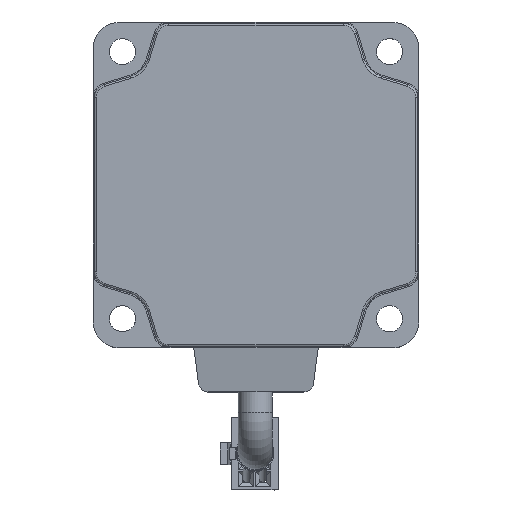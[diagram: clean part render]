
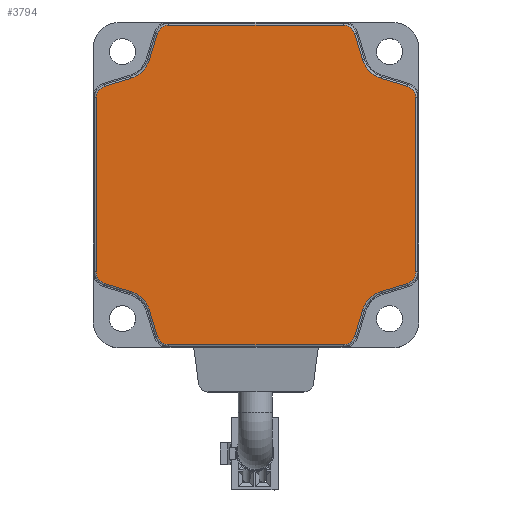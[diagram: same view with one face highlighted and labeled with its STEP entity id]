
A CAD part, top view. The second image highlights one B-rep face of the part: STEP entity #3794.
In plain terms, the highlighted planar face has unit normal (0, 0, 1).
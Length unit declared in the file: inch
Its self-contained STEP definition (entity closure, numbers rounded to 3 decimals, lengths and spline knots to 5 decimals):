
#2881=CARTESIAN_POINT('',(-0.8528,1.56496,1.33858));
#2882=VERTEX_POINT('',#2881);
#2890=CARTESIAN_POINT('',(0.8528,1.56496,1.33858));
#2891=VERTEX_POINT('',#2890);
#2892=CARTESIAN_POINT('',(-0.8528,1.56496,1.33858));
#2893=DIRECTION('',(1.0,0.0,0.0));
#2894=VECTOR('',#2893,1.7056);
#2895=LINE('',#2892,#2894);
#2896=EDGE_CURVE('',#2882,#2891,#2895,.T.);
#2916=CARTESIAN_POINT('',(-0.96574,1.48142,1.33858));
#2917=VERTEX_POINT('',#2916);
#2925=CARTESIAN_POINT('',(-0.8528,1.44685,1.33858));
#2926=DIRECTION('',(0.0,0.0,-1.0));
#2927=DIRECTION('',(-0.595,0.804,0.0));
#2928=AXIS2_PLACEMENT_3D('',#2925,#2926,#2927);
#2929=CIRCLE('',#2928,0.11811);
#2930=EDGE_CURVE('',#2917,#2882,#2929,.T.);
#2948=CARTESIAN_POINT('',(0.96574,1.48142,1.33858));
#2949=VERTEX_POINT('',#2948);
#2959=CARTESIAN_POINT('',(0.8528,1.44685,1.33858));
#2960=DIRECTION('',(0.0,0.0,-1.0));
#2961=DIRECTION('',(0.595,0.804,0.0));
#2962=AXIS2_PLACEMENT_3D('',#2959,#2960,#2961);
#2963=CIRCLE('',#2962,0.11811);
#2964=EDGE_CURVE('',#2891,#2949,#2963,.T.);
#2976=CARTESIAN_POINT('',(-1.04374,1.2266,1.33858));
#2977=VERTEX_POINT('',#2976);
#2985=CARTESIAN_POINT('',(-1.04374,1.2266,1.33858));
#2986=DIRECTION('',(0.293,0.956,0.0));
#2987=VECTOR('',#2986,0.2665);
#2988=LINE('',#2985,#2987);
#2989=EDGE_CURVE('',#2977,#2917,#2988,.T.);
#3006=CARTESIAN_POINT('',(1.04374,1.2266,1.33858));
#3007=VERTEX_POINT('',#3006);
#3017=CARTESIAN_POINT('',(0.96574,1.48142,1.33858));
#3018=DIRECTION('',(0.293,-0.956,0.0));
#3019=VECTOR('',#3018,0.2665);
#3020=LINE('',#3017,#3019);
#3021=EDGE_CURVE('',#2949,#3007,#3020,.T.);
#3033=CARTESIAN_POINT('',(-1.2266,1.04374,1.33858));
#3034=VERTEX_POINT('',#3033);
#3042=CARTESIAN_POINT('',(-1.30726,1.30726,1.33858));
#3043=DIRECTION('',(0.0,0.0,1.));
#3044=DIRECTION('',(0.707,-0.707,0.0));
#3045=AXIS2_PLACEMENT_3D('',#3042,#3043,#3044);
#3046=CIRCLE('',#3045,0.27559);
#3047=EDGE_CURVE('',#3034,#2977,#3046,.T.);
#3065=CARTESIAN_POINT('',(1.2266,1.04374,1.33858));
#3066=VERTEX_POINT('',#3065);
#3076=CARTESIAN_POINT('',(1.30726,1.30726,1.33858));
#3077=DIRECTION('',(0.0,0.0,1.));
#3078=DIRECTION('',(-0.707,-0.707,0.0));
#3079=AXIS2_PLACEMENT_3D('',#3076,#3077,#3078);
#3080=CIRCLE('',#3079,0.27559);
#3081=EDGE_CURVE('',#3007,#3066,#3080,.T.);
#3093=CARTESIAN_POINT('',(-1.48142,0.96574,1.33858));
#3094=VERTEX_POINT('',#3093);
#3102=CARTESIAN_POINT('',(-1.48142,0.96574,1.33858));
#3103=DIRECTION('',(0.956,0.293,0.0));
#3104=VECTOR('',#3103,0.2665);
#3105=LINE('',#3102,#3104);
#3106=EDGE_CURVE('',#3094,#3034,#3105,.T.);
#3123=CARTESIAN_POINT('',(1.48142,0.96574,1.33858));
#3124=VERTEX_POINT('',#3123);
#3134=CARTESIAN_POINT('',(1.2266,1.04374,1.33858));
#3135=DIRECTION('',(0.956,-0.293,0.0));
#3136=VECTOR('',#3135,0.2665);
#3137=LINE('',#3134,#3136);
#3138=EDGE_CURVE('',#3066,#3124,#3137,.T.);
#3150=CARTESIAN_POINT('',(-1.56496,0.8528,1.33858));
#3151=VERTEX_POINT('',#3150);
#3159=CARTESIAN_POINT('',(-1.44685,0.8528,1.33858));
#3160=DIRECTION('',(0.0,0.0,-1.));
#3161=DIRECTION('',(-0.804,0.595,0.0));
#3162=AXIS2_PLACEMENT_3D('',#3159,#3160,#3161);
#3163=CIRCLE('',#3162,0.11811);
#3164=EDGE_CURVE('',#3151,#3094,#3163,.T.);
#3182=CARTESIAN_POINT('',(1.56496,0.8528,1.33858));
#3183=VERTEX_POINT('',#3182);
#3193=CARTESIAN_POINT('',(1.44685,0.8528,1.33858));
#3194=DIRECTION('',(0.0,0.0,-1.0));
#3195=DIRECTION('',(0.804,0.595,0.0));
#3196=AXIS2_PLACEMENT_3D('',#3193,#3194,#3195);
#3197=CIRCLE('',#3196,0.11811);
#3198=EDGE_CURVE('',#3124,#3183,#3197,.T.);
#3210=CARTESIAN_POINT('',(-1.56496,-0.8528,1.33858));
#3211=VERTEX_POINT('',#3210);
#3219=CARTESIAN_POINT('',(-1.56496,-0.8528,1.33858));
#3220=DIRECTION('',(0.0,1.0,0.0));
#3221=VECTOR('',#3220,1.7056);
#3222=LINE('',#3219,#3221);
#3223=EDGE_CURVE('',#3211,#3151,#3222,.T.);
#3240=CARTESIAN_POINT('',(1.56496,-0.8528,1.33858));
#3241=VERTEX_POINT('',#3240);
#3251=CARTESIAN_POINT('',(1.56496,0.8528,1.33858));
#3252=DIRECTION('',(0.0,-1.0,0.0));
#3253=VECTOR('',#3252,1.7056);
#3254=LINE('',#3251,#3253);
#3255=EDGE_CURVE('',#3183,#3241,#3254,.T.);
#3267=CARTESIAN_POINT('',(-1.48142,-0.96574,1.33858));
#3268=VERTEX_POINT('',#3267);
#3276=CARTESIAN_POINT('',(-1.44685,-0.8528,1.33858));
#3277=DIRECTION('',(0.0,0.0,-1.0));
#3278=DIRECTION('',(-0.804,-0.595,0.0));
#3279=AXIS2_PLACEMENT_3D('',#3276,#3277,#3278);
#3280=CIRCLE('',#3279,0.11811);
#3281=EDGE_CURVE('',#3268,#3211,#3280,.T.);
#3299=CARTESIAN_POINT('',(1.48142,-0.96574,1.33858));
#3300=VERTEX_POINT('',#3299);
#3310=CARTESIAN_POINT('',(1.44685,-0.8528,1.33858));
#3311=DIRECTION('',(0.0,0.0,-1.));
#3312=DIRECTION('',(0.804,-0.595,0.0));
#3313=AXIS2_PLACEMENT_3D('',#3310,#3311,#3312);
#3314=CIRCLE('',#3313,0.11811);
#3315=EDGE_CURVE('',#3241,#3300,#3314,.T.);
#3327=CARTESIAN_POINT('',(-1.2266,-1.04374,1.33858));
#3328=VERTEX_POINT('',#3327);
#3336=CARTESIAN_POINT('',(-1.2266,-1.04374,1.33858));
#3337=DIRECTION('',(-0.956,0.293,0.0));
#3338=VECTOR('',#3337,0.2665);
#3339=LINE('',#3336,#3338);
#3340=EDGE_CURVE('',#3328,#3268,#3339,.T.);
#3357=CARTESIAN_POINT('',(1.2266,-1.04374,1.33858));
#3358=VERTEX_POINT('',#3357);
#3368=CARTESIAN_POINT('',(1.48142,-0.96574,1.33858));
#3369=DIRECTION('',(-0.956,-0.293,0.0));
#3370=VECTOR('',#3369,0.2665);
#3371=LINE('',#3368,#3370);
#3372=EDGE_CURVE('',#3300,#3358,#3371,.T.);
#3384=CARTESIAN_POINT('',(-1.04374,-1.2266,1.33858));
#3385=VERTEX_POINT('',#3384);
#3393=CARTESIAN_POINT('',(-1.30726,-1.30726,1.33858));
#3394=DIRECTION('',(0.0,0.0,1.0));
#3395=DIRECTION('',(0.707,0.707,0.0));
#3396=AXIS2_PLACEMENT_3D('',#3393,#3394,#3395);
#3397=CIRCLE('',#3396,0.27559);
#3398=EDGE_CURVE('',#3385,#3328,#3397,.T.);
#3416=CARTESIAN_POINT('',(1.04374,-1.2266,1.33858));
#3417=VERTEX_POINT('',#3416);
#3427=CARTESIAN_POINT('',(1.30726,-1.30726,1.33858));
#3428=DIRECTION('',(0.0,0.0,1.0));
#3429=DIRECTION('',(-0.707,0.707,0.0));
#3430=AXIS2_PLACEMENT_3D('',#3427,#3428,#3429);
#3431=CIRCLE('',#3430,0.27559);
#3432=EDGE_CURVE('',#3358,#3417,#3431,.T.);
#3444=CARTESIAN_POINT('',(-0.96574,-1.48142,1.33858));
#3445=VERTEX_POINT('',#3444);
#3453=CARTESIAN_POINT('',(-0.96574,-1.48142,1.33858));
#3454=DIRECTION('',(-0.293,0.956,0.0));
#3455=VECTOR('',#3454,0.2665);
#3456=LINE('',#3453,#3455);
#3457=EDGE_CURVE('',#3445,#3385,#3456,.T.);
#3474=CARTESIAN_POINT('',(0.96574,-1.48142,1.33858));
#3475=VERTEX_POINT('',#3474);
#3485=CARTESIAN_POINT('',(1.04374,-1.2266,1.33858));
#3486=DIRECTION('',(-0.293,-0.956,0.0));
#3487=VECTOR('',#3486,0.2665);
#3488=LINE('',#3485,#3487);
#3489=EDGE_CURVE('',#3417,#3475,#3488,.T.);
#3501=CARTESIAN_POINT('',(-0.8528,-1.56496,1.33858));
#3502=VERTEX_POINT('',#3501);
#3510=CARTESIAN_POINT('',(-0.8528,-1.44685,1.33858));
#3511=DIRECTION('',(0.0,0.0,-1.0));
#3512=DIRECTION('',(-0.595,-0.804,0.0));
#3513=AXIS2_PLACEMENT_3D('',#3510,#3511,#3512);
#3514=CIRCLE('',#3513,0.11811);
#3515=EDGE_CURVE('',#3502,#3445,#3514,.T.);
#3533=CARTESIAN_POINT('',(0.8528,-1.56496,1.33858));
#3534=VERTEX_POINT('',#3533);
#3544=CARTESIAN_POINT('',(0.8528,-1.44685,1.33858));
#3545=DIRECTION('',(0.0,0.0,-1.0));
#3546=DIRECTION('',(0.595,-0.804,0.0));
#3547=AXIS2_PLACEMENT_3D('',#3544,#3545,#3546);
#3548=CIRCLE('',#3547,0.11811);
#3549=EDGE_CURVE('',#3475,#3534,#3548,.T.);
#3567=CARTESIAN_POINT('',(0.8528,-1.56496,1.33858));
#3568=DIRECTION('',(-1.0,0.0,0.0));
#3569=VECTOR('',#3568,1.7056);
#3570=LINE('',#3567,#3569);
#3571=EDGE_CURVE('',#3534,#3502,#3570,.T.);
#3763=CARTESIAN_POINT('',(0.,0.,1.33858));
#3764=DIRECTION('',(0.0,0.0,1.0));
#3765=DIRECTION('',(1.0,0.0,0.0));
#3766=AXIS2_PLACEMENT_3D('',#3763,#3764,#3765);
#3767=PLANE('',#3766);
#3768=ORIENTED_EDGE('',*,*,#2896,.F.);
#3769=ORIENTED_EDGE('',*,*,#2930,.F.);
#3770=ORIENTED_EDGE('',*,*,#2989,.F.);
#3771=ORIENTED_EDGE('',*,*,#3047,.F.);
#3772=ORIENTED_EDGE('',*,*,#3106,.F.);
#3773=ORIENTED_EDGE('',*,*,#3164,.F.);
#3774=ORIENTED_EDGE('',*,*,#3223,.F.);
#3775=ORIENTED_EDGE('',*,*,#3281,.F.);
#3776=ORIENTED_EDGE('',*,*,#3340,.F.);
#3777=ORIENTED_EDGE('',*,*,#3398,.F.);
#3778=ORIENTED_EDGE('',*,*,#3457,.F.);
#3779=ORIENTED_EDGE('',*,*,#3515,.F.);
#3780=ORIENTED_EDGE('',*,*,#3571,.F.);
#3781=ORIENTED_EDGE('',*,*,#3549,.F.);
#3782=ORIENTED_EDGE('',*,*,#3489,.F.);
#3783=ORIENTED_EDGE('',*,*,#3432,.F.);
#3784=ORIENTED_EDGE('',*,*,#3372,.F.);
#3785=ORIENTED_EDGE('',*,*,#3315,.F.);
#3786=ORIENTED_EDGE('',*,*,#3255,.F.);
#3787=ORIENTED_EDGE('',*,*,#3198,.F.);
#3788=ORIENTED_EDGE('',*,*,#3138,.F.);
#3789=ORIENTED_EDGE('',*,*,#3081,.F.);
#3790=ORIENTED_EDGE('',*,*,#3021,.F.);
#3791=ORIENTED_EDGE('',*,*,#2964,.F.);
#3792=EDGE_LOOP('',(#3768,#3769,#3770,#3771,#3772,#3773,#3774,#3775,#3776,#3777,#3778,#3779,#3780,#3781,#3782,#3783,#3784,#3785,#3786,#3787,#3788,#3789,#3790,#3791));
#3793=FACE_OUTER_BOUND('',#3792,.T.);
#3794=ADVANCED_FACE('',(#3793),#3767,.T.);
